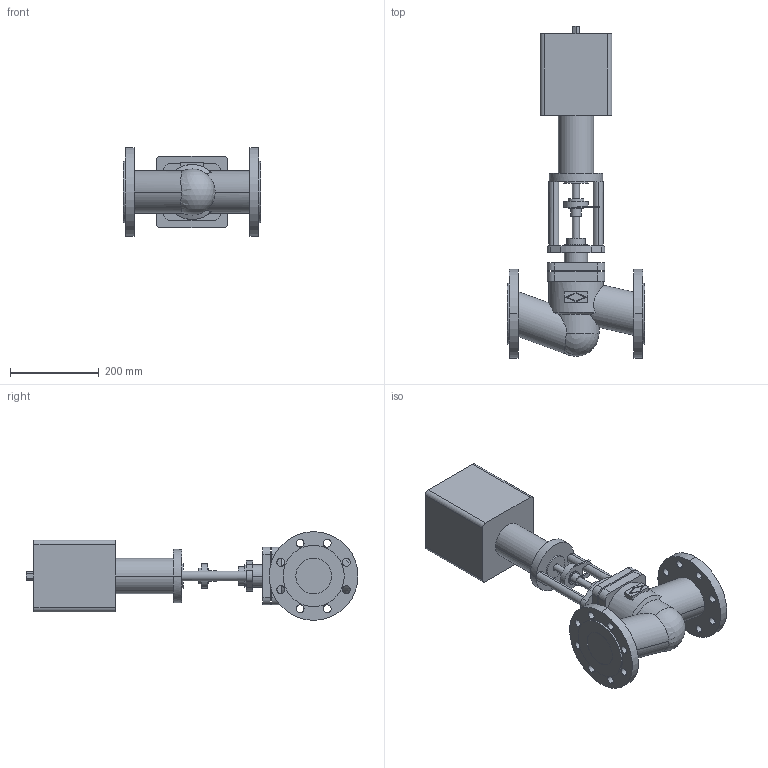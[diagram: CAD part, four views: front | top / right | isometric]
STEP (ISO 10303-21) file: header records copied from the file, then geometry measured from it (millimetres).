
FILE_DESCRIPTION( ( '' ), '1' );
FILE_NAME( 'F:/DE-SHS/TB/OR/04-Sonstiges/daten/files_3d/440-FR2.2/440-PN16-FR2_2/c000004534.stp', '2014-11-06T09:37:21', ( '' ), ( '' ), ' ', ' ', ' ' );
FILE_SCHEMA( ( 'CONFIG_CONTROL_DESIGN' ) );
Length unit declared in the file: millimetre
Products named in the file (2): 1; 2
Bounding box: 310 x 748.5 x 200 mm (x, y, z)
Volume: 10745644.6 mm3; surface area: 583172.6 mm2
Topology: 2 solids, 2 shells, 178 faces, 443 edges, 293 vertices
Faces by surface type: cylinder 98, plane 77, cone 2, sphere 1
Entity records: 6021 total; most frequent: CARTESIAN_POINT 1442, DIRECTION 995, ORIENTED_EDGE 882, EDGE_CURVE 441, AXIS2_PLACEMENT_3D 388, VERTEX_POINT 293, EDGE_LOOP 236, LINE 219
